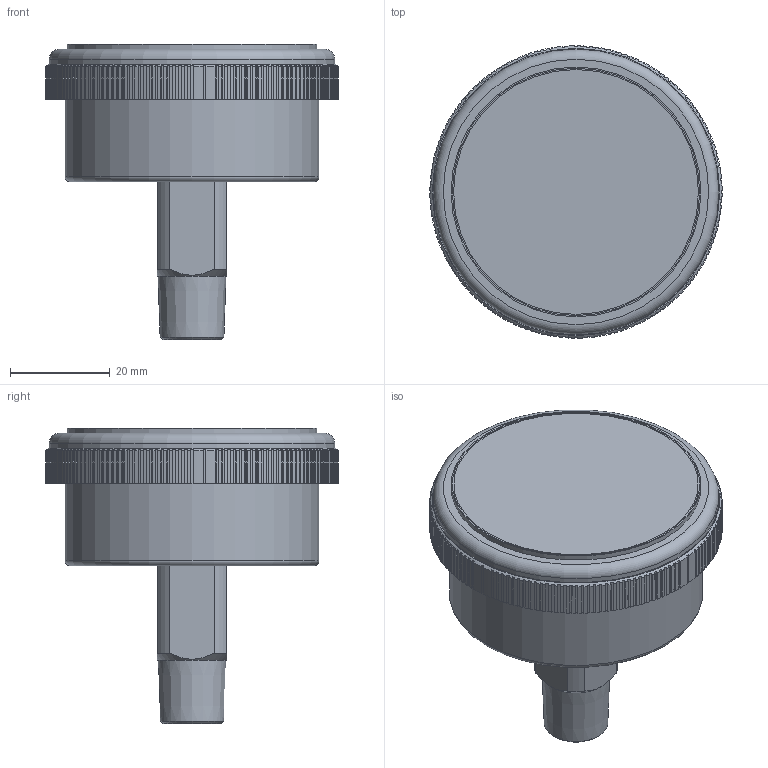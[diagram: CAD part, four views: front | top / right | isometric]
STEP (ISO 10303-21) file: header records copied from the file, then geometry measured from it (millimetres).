
FILE_DESCRIPTION(/* description */ (''),/* implementation_level */ '2;1');
FILE_NAME(/* name */ 'P800_50PI_CENTER BACK MOUNT_NPT(M).stp',/* time_stamp */ '2025-03-27T08:13:51+09:00',/* author */ ('wise-209'),/* organization */ (''),/* preprocessor_version */ 'ST-DEVELOPER v19.2',/* originating_system */ 'Autodesk Inventor 2024',/* authorisation */ '');
FILE_SCHEMA (('AUTOMOTIVE_DESIGN { 1 0 10303 214 3 1 1 }'));
Length unit declared in the file: millimetre
Products named in the file (3): P830_50mm_F Type_NPT_ASSY.ipt; P810_CASE,COVER,SHANK_ VCR; P830_50mm_F Type_14in NPT_SHANK
Assembly tree (2 placements, depth 2):
  P830_50mm_F Type_NPT_ASSY.ipt
    P810_CASE,COVER,SHANK_ VCR
    P830_50mm_F Type_14in NPT_SHANK
Bounding box: 58.5 x 58.5 x 59.1 mm (x, y, z)
Volume: 60181.6 mm3; surface area: 18177.7 mm2
Topology: 2 solids, 3 shells, 616 faces, 1809 edges, 1205 vertices
Faces by surface type: plane 452, cylinder 154, cone 7, torus 3
Full cylindrical faces by diameter (mm): 3 x1, 48.998 x1, 50 x1, 50.8 x1, 55.5 x1, 57.1 x1
Entity records: 23127 total; most frequent: CARTESIAN_POINT 6166, ORIENTED_EDGE 3618, DIRECTION 3521, EDGE_CURVE 1809, LINE 1329, VECTOR 1329, VERTEX_POINT 1205, AXIS2_PLACEMENT_3D 1096
